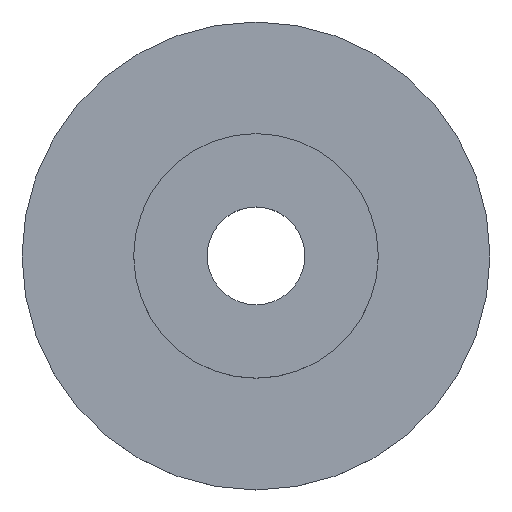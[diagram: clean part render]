
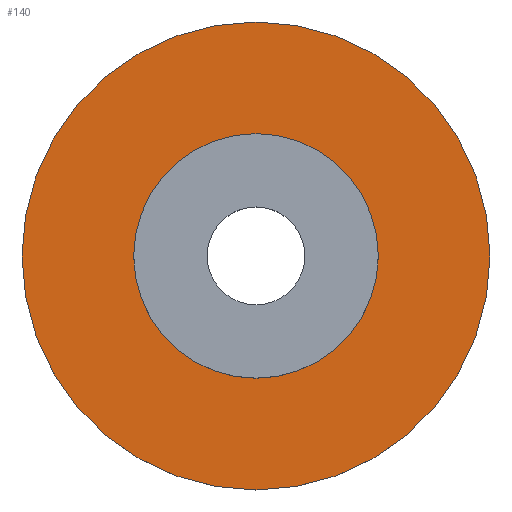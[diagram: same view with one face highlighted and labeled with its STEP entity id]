
A CAD part, top view. The second image highlights one B-rep face of the part: STEP entity #140.
In plain terms, the highlighted planar face has unit normal (0, 0, 1).
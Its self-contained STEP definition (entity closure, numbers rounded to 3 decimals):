
#74 = CYLINDRICAL_SURFACE('',#75,30.85);
#75 = AXIS2_PLACEMENT_3D('',#76,#77,#78);
#76 = CARTESIAN_POINT('',(0.,0.,0.));
#77 = DIRECTION('',(0.,0.,1.));
#78 = DIRECTION('',(1.,0.,-0.));
#91 = VERTEX_POINT('',#92);
#92 = CARTESIAN_POINT('',(30.85,0.,1.6));
#113 = EDGE_CURVE('',#91,#91,#114,.T.);
#114 = SURFACE_CURVE('',#115,(#120,#127),.PCURVE_S1.);
#115 = CIRCLE('',#116,30.85);
#116 = AXIS2_PLACEMENT_3D('',#117,#118,#119);
#117 = CARTESIAN_POINT('',(0.,0.,1.6));
#118 = DIRECTION('',(0.,0.,1.));
#119 = DIRECTION('',(1.,0.,-0.));
#120 = PCURVE('',#74,#121);
#121 = DEFINITIONAL_REPRESENTATION('',(#122),#126);
#122 = LINE('',#123,#124);
#123 = CARTESIAN_POINT('',(0.,1.6));
#124 = VECTOR('',#125,1.);
#125 = DIRECTION('',(1.,0.));
#126 = ( GEOMETRIC_REPRESENTATION_CONTEXT(2) 
PARAMETRIC_REPRESENTATION_CONTEXT() REPRESENTATION_CONTEXT('2D SPACE',''
  ) );
#127 = PCURVE('',#128,#133);
#128 = PLANE('',#129);
#129 = AXIS2_PLACEMENT_3D('',#130,#131,#132);
#130 = CARTESIAN_POINT('',(0.,0.,1.6));
#131 = DIRECTION('',(0.,0.,1.));
#132 = DIRECTION('',(1.,0.,-0.));
#133 = DEFINITIONAL_REPRESENTATION('',(#134),#138);
#134 = CIRCLE('',#135,30.85);
#135 = AXIS2_PLACEMENT_2D('',#136,#137);
#136 = CARTESIAN_POINT('',(0.,0.));
#137 = DIRECTION('',(1.,0.));
#138 = ( GEOMETRIC_REPRESENTATION_CONTEXT(2) 
PARAMETRIC_REPRESENTATION_CONTEXT() REPRESENTATION_CONTEXT('2D SPACE',''
  ) );
#140 = ADVANCED_FACE('',(#141,#144),#128,.T.);
#141 = FACE_BOUND('',#142,.T.);
#142 = EDGE_LOOP('',(#143));
#143 = ORIENTED_EDGE('',*,*,#113,.T.);
#144 = FACE_BOUND('',#145,.T.);
#145 = EDGE_LOOP('',(#146));
#146 = ORIENTED_EDGE('',*,*,#147,.F.);
#147 = EDGE_CURVE('',#148,#148,#150,.T.);
#148 = VERTEX_POINT('',#149);
#149 = CARTESIAN_POINT('',(16.12,0.,1.6));
#150 = SURFACE_CURVE('',#151,(#156,#163),.PCURVE_S1.);
#151 = CIRCLE('',#152,16.12);
#152 = AXIS2_PLACEMENT_3D('',#153,#154,#155);
#153 = CARTESIAN_POINT('',(0.,0.,1.6));
#154 = DIRECTION('',(0.,0.,1.));
#155 = DIRECTION('',(1.,0.,-0.));
#156 = PCURVE('',#128,#157);
#157 = DEFINITIONAL_REPRESENTATION('',(#158),#162);
#158 = CIRCLE('',#159,16.12);
#159 = AXIS2_PLACEMENT_2D('',#160,#161);
#160 = CARTESIAN_POINT('',(0.,0.));
#161 = DIRECTION('',(1.,0.));
#162 = ( GEOMETRIC_REPRESENTATION_CONTEXT(2) 
PARAMETRIC_REPRESENTATION_CONTEXT() REPRESENTATION_CONTEXT('2D SPACE',''
  ) );
#163 = PCURVE('',#164,#169);
#164 = CYLINDRICAL_SURFACE('',#165,16.12);
#165 = AXIS2_PLACEMENT_3D('',#166,#167,#168);
#166 = CARTESIAN_POINT('',(0.,0.,1.6));
#167 = DIRECTION('',(0.,0.,1.));
#168 = DIRECTION('',(1.,0.,-0.));
#169 = DEFINITIONAL_REPRESENTATION('',(#170),#174);
#170 = LINE('',#171,#172);
#171 = CARTESIAN_POINT('',(0.,0.));
#172 = VECTOR('',#173,1.);
#173 = DIRECTION('',(1.,0.));
#174 = ( GEOMETRIC_REPRESENTATION_CONTEXT(2) 
PARAMETRIC_REPRESENTATION_CONTEXT() REPRESENTATION_CONTEXT('2D SPACE',''
  ) );
